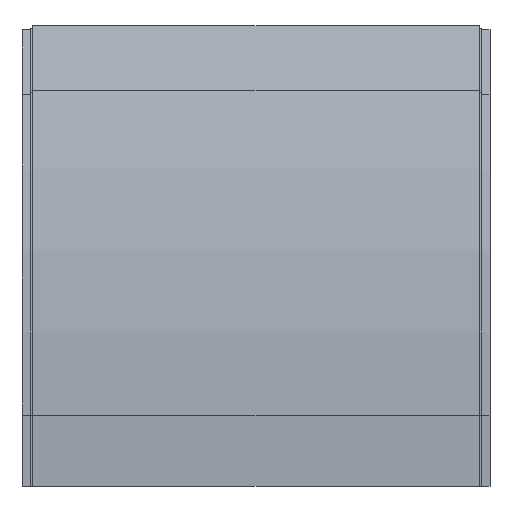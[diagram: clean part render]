
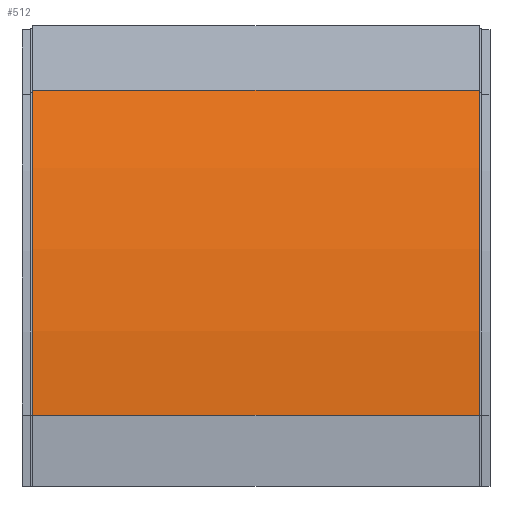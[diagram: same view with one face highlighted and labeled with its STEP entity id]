
A CAD part, front view. The second image highlights one B-rep face of the part: STEP entity #512.
In plain terms, the highlighted cylindrical face has radius 568.25 mm (diameter 1136.5 mm), a partial arc.
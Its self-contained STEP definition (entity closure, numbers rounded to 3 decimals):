
#13 = CIRCLE ( 'NONE', #1047, 568.25 ) ;
#22 = AXIS2_PLACEMENT_3D ( 'NONE', #216, #106, #113 ) ;
#47 = VERTEX_POINT ( 'NONE', #304 ) ;
#52 = CARTESIAN_POINT ( 'NONE',  ( -165.1, 500., 52.5 ) ) ;
#106 = DIRECTION ( 'NONE',  ( -1., 0., 0. ) ) ;
#112 = CARTESIAN_POINT ( 'NONE',  ( -165.1, -15.009, 292.653 ) ) ;
#113 = DIRECTION ( 'NONE',  ( 0., 0., 1. ) ) ;
#120 = ORIENTED_EDGE ( 'NONE', *, *, #926, .F. ) ;
#142 = DIRECTION ( 'NONE',  ( 0., 0., 1. ) ) ;
#156 = EDGE_CURVE ( 'NONE', #1306, #1362, #1263, .T. ) ;
#161 = DIRECTION ( 'NONE',  ( 1., 0., 0. ) ) ;
#216 = CARTESIAN_POINT ( 'NONE',  ( 0., 500., 52.5 ) ) ;
#226 = EDGE_CURVE ( 'NONE', #1235, #47, #931, .T. ) ;
#291 = AXIS2_PLACEMENT_3D ( 'NONE', #52, #781, #142 ) ;
#304 = CARTESIAN_POINT ( 'NONE',  ( 165.1, -15.009, 292.653 ) ) ;
#318 = DIRECTION ( 'NONE',  ( -1., 0., 0. ) ) ;
#322 = ORIENTED_EDGE ( 'NONE', *, *, #226, .F. ) ;
#420 = FACE_OUTER_BOUND ( 'NONE', #562, .T. ) ;
#512 = ADVANCED_FACE ( 'NONE', ( #420 ), #519, .T. ) ;
#519 = CYLINDRICAL_SURFACE ( 'NONE', #22, 568.25 ) ;
#562 = EDGE_LOOP ( 'NONE', ( #939, #1296, #322, #120 ) ) ;
#744 = DIRECTION ( 'NONE',  ( 0., 0., 1. ) ) ;
#781 = DIRECTION ( 'NONE',  ( -1., 0., 0. ) ) ;
#879 = VECTOR ( 'NONE', #1345, 1000. ) ;
#926 = EDGE_CURVE ( 'NONE', #1306, #1235, #1058, .T. ) ;
#931 = LINE ( 'NONE', #1000, #879 ) ;
#939 = ORIENTED_EDGE ( 'NONE', *, *, #156, .T. ) ;
#996 = CARTESIAN_POINT ( 'NONE',  ( 165.1, 500., 52.5 ) ) ;
#1000 = CARTESIAN_POINT ( 'NONE',  ( -165.1, -15.009, 292.653 ) ) ;
#1015 = CARTESIAN_POINT ( 'NONE',  ( -165.1, -68.25, 52.5 ) ) ;
#1047 = AXIS2_PLACEMENT_3D ( 'NONE', #996, #318, #744 ) ;
#1058 = CIRCLE ( 'NONE', #291, 568.25 ) ;
#1136 = CARTESIAN_POINT ( 'NONE',  ( -165.1, -68.25, 52.5 ) ) ;
#1164 = VECTOR ( 'NONE', #161, 1000. ) ;
#1235 = VERTEX_POINT ( 'NONE', #112 ) ;
#1263 = LINE ( 'NONE', #1136, #1164 ) ;
#1296 = ORIENTED_EDGE ( 'NONE', *, *, #1319, .T. ) ;
#1306 = VERTEX_POINT ( 'NONE', #1015 ) ;
#1319 = EDGE_CURVE ( 'NONE', #1362, #47, #13, .T. ) ;
#1330 = CARTESIAN_POINT ( 'NONE',  ( 165.1, -68.25, 52.5 ) ) ;
#1345 = DIRECTION ( 'NONE',  ( 1., 0., 0. ) ) ;
#1362 = VERTEX_POINT ( 'NONE', #1330 ) ;
